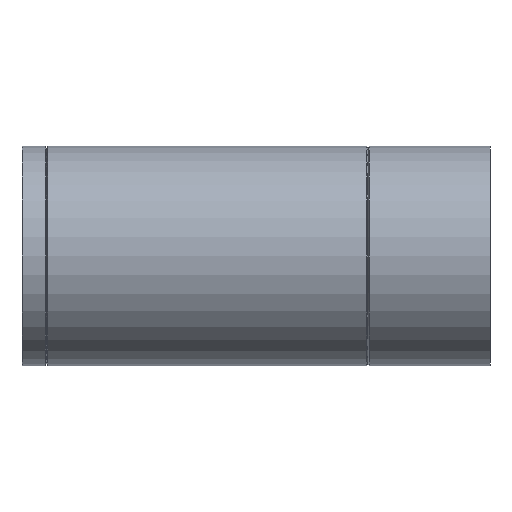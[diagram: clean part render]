
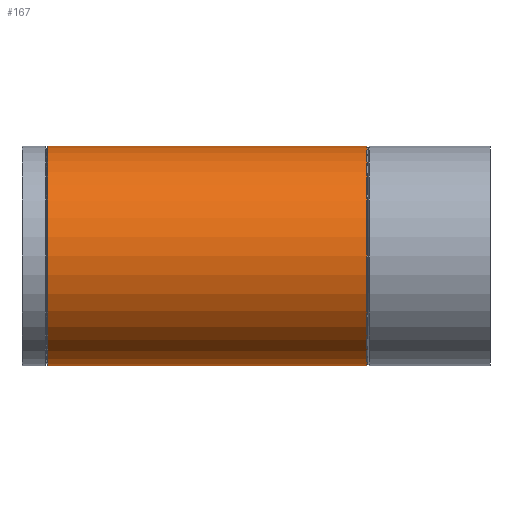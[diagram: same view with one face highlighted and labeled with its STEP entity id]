
A CAD part, left-side view. The second image highlights one B-rep face of the part: STEP entity #167.
In plain terms, the highlighted cylindrical face has radius 67.5 mm (diameter 135 mm), a full revolution.
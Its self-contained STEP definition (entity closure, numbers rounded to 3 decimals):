
#16=ELLIPSE($,#191,94.234,67.5);
#17=ELLIPSE($,#192,96.734,67.5);
#21=CYLINDRICAL_SURFACE($,#190,67.5);
#31=FACE_BOUND($,#65,.T.);
#32=FACE_BOUND($,#66,.T.);
#50=FACE_OUTER_BOUND($,#64,.T.);
#64=EDGE_LOOP($,(#136));
#65=EDGE_LOOP($,(#137,#138));
#66=EDGE_LOOP($,(#139));
#83=CIRCLE($,#180,67.5);
#88=CIRCLE($,#189,67.5);
#95=VERTEX_POINT($,#271);
#100=VERTEX_POINT($,#285);
#101=VERTEX_POINT($,#288);
#102=VERTEX_POINT($,#289);
#111=EDGE_CURVE($,#95,#95,#83,.T.);
#116=EDGE_CURVE($,#100,#100,#88,.T.);
#117=EDGE_CURVE($,#101,#102,#16,.T.);
#118=EDGE_CURVE($,#102,#101,#17,.T.);
#136=ORIENTED_EDGE($,*,*,#111,.T.);
#137=ORIENTED_EDGE($,*,*,#117,.T.);
#138=ORIENTED_EDGE($,*,*,#118,.T.);
#139=ORIENTED_EDGE($,*,*,#116,.T.);
#167=ADVANCED_FACE($,(#50,#31,#32),#21,.T.);
#180=AXIS2_PLACEMENT_3D($,#272,#213,#214);
#189=AXIS2_PLACEMENT_3D($,#286,#231,#232);
#190=AXIS2_PLACEMENT_3D($,#287,#233,#234);
#191=AXIS2_PLACEMENT_3D($,#290,#235,#236);
#192=AXIS2_PLACEMENT_3D($,#291,#237,#238);
#213=DIRECTION('center_axis',(0.,-1.,0.));
#214=DIRECTION('ref_axis',(1.,0.,0.));
#231=DIRECTION('center_axis',(0.,1.,0.));
#232=DIRECTION('ref_axis',(1.,0.,0.));
#233=DIRECTION('center_axis',(0.,1.,0.));
#234=DIRECTION('ref_axis',(1.,0.,0.));
#235=DIRECTION('center_axis',(-0.698,-0.716,0.));
#236=DIRECTION('ref_axis',(0.716,-0.698,0.));
#237=DIRECTION('center_axis',(-0.716,0.698,0.));
#238=DIRECTION('ref_axis',(-0.698,-0.716,0.));
#271=CARTESIAN_POINT('',(67.5,271.721,0.));
#272=CARTESIAN_POINT('Origin',(0.,271.721,0.));
#285=CARTESIAN_POINT('',(67.5,75.779,0.));
#286=CARTESIAN_POINT('Origin',(0.,75.779,0.));
#287=CARTESIAN_POINT('Origin',(0.,0.,0.));
#288=CARTESIAN_POINT('',(0.,172.5,-67.5));
#289=CARTESIAN_POINT('',(0.,172.5,67.5));
#290=CARTESIAN_POINT('Origin',(0.,172.5,0.));
#291=CARTESIAN_POINT('Origin',(0.,172.5,0.));
